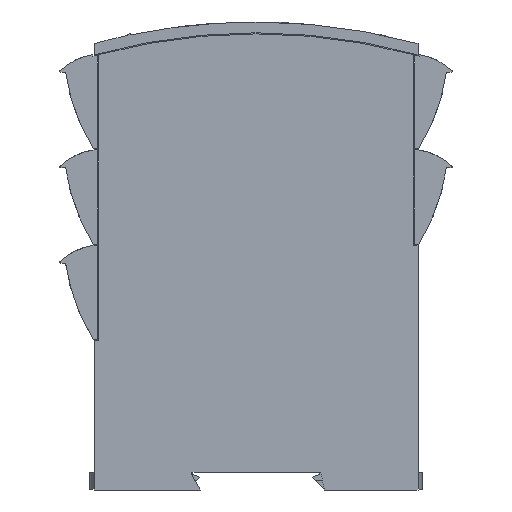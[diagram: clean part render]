
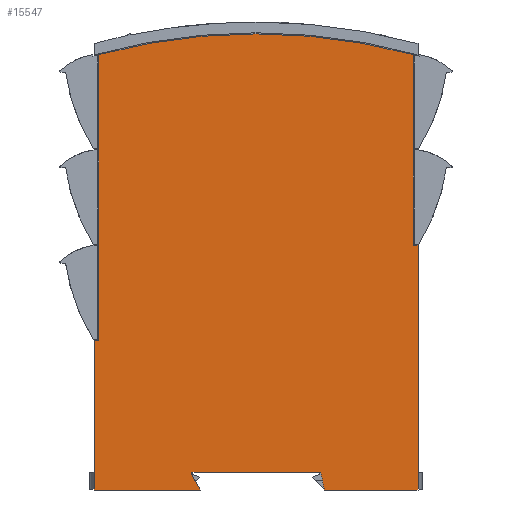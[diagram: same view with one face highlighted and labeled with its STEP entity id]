
A CAD part, left-side view. The second image highlights one B-rep face of the part: STEP entity #15547.
In plain terms, the highlighted planar face has unit normal (-1, 0, 0).
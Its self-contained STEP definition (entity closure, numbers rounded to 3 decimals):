
#119 = VECTOR ( 'NONE', #16597, 1000. ) ;
#173 = EDGE_CURVE ( 'NONE', #12358, #11105, #7694, .T. ) ;
#318 = DIRECTION ( 'NONE',  ( 0., 1., 0. ) ) ;
#627 = VERTEX_POINT ( 'NONE', #2536 ) ;
#985 = EDGE_CURVE ( 'NONE', #17791, #17031, #11683, .T. ) ;
#1011 = ORIENTED_EDGE ( 'NONE', *, *, #12300, .F. ) ;
#1232 = CARTESIAN_POINT ( 'NONE',  ( -11.75, -19., -124. ) ) ;
#1388 = PLANE ( 'NONE',  #7002 ) ;
#1730 = EDGE_CURVE ( 'NONE', #15993, #17376, #2837, .T. ) ;
#1978 = LINE ( 'NONE', #16311, #16287 ) ;
#2211 = CARTESIAN_POINT ( 'NONE',  ( -11.75, -45., -56. ) ) ;
#2283 = AXIS2_PLACEMENT_3D ( 'NONE', #14032, #15500, #6202 ) ;
#2398 = ORIENTED_EDGE ( 'NONE', *, *, #7457, .T. ) ;
#2536 = CARTESIAN_POINT ( 'NONE',  ( -11.75, 43.7, -3.067 ) ) ;
#2631 = VECTOR ( 'NONE', #18695, 1000. ) ;
#2837 = LINE ( 'NONE', #13806, #13646 ) ;
#3087 = EDGE_CURVE ( 'NONE', #5303, #11105, #19921, .T. ) ;
#3545 = VERTEX_POINT ( 'NONE', #10477 ) ;
#3550 = EDGE_CURVE ( 'NONE', #15993, #8807, #17116, .T. ) ;
#3860 = VECTOR ( 'NONE', #20853, 1000. ) ;
#4043 = DIRECTION ( 'NONE',  ( 0., 0.497, 0.868 ) ) ;
#4086 = DIRECTION ( 'NONE',  ( 1., 0., 0. ) ) ;
#4276 = DIRECTION ( 'NONE',  ( 0., 0., -1. ) ) ;
#5153 = DIRECTION ( 'NONE',  ( 0., -1., 0. ) ) ;
#5303 = VERTEX_POINT ( 'NONE', #14553 ) ;
#5497 = DIRECTION ( 'NONE',  ( -1., 0., 0. ) ) ;
#5615 = CARTESIAN_POINT ( 'NONE',  ( -11.75, 17.934, -119.748 ) ) ;
#5724 = DIRECTION ( 'NONE',  ( 0., 0., -1. ) ) ;
#5730 = EDGE_CURVE ( 'NONE', #12479, #5303, #10316, .T. ) ;
#5893 = LINE ( 'NONE', #14310, #12912 ) ;
#5898 = CARTESIAN_POINT ( 'NONE',  ( -11.75, -43.7, -3.067 ) ) ;
#6202 = DIRECTION ( 'NONE',  ( 0., 0., -1. ) ) ;
#6705 = CARTESIAN_POINT ( 'NONE',  ( -11.75, 45., -124. ) ) ;
#6982 = CARTESIAN_POINT ( 'NONE',  ( -11.75, 43.7, -82.5 ) ) ;
#7002 = AXIS2_PLACEMENT_3D ( 'NONE', #7646, #20503, #4276 ) ;
#7331 = FACE_OUTER_BOUND ( 'NONE', #12268, .T. ) ;
#7457 = EDGE_CURVE ( 'NONE', #17074, #3545, #7740, .T. ) ;
#7469 = ORIENTED_EDGE ( 'NONE', *, *, #12227, .T. ) ;
#7646 = CARTESIAN_POINT ( 'NONE',  ( -11.75, 0., -165.75 ) ) ;
#7694 = LINE ( 'NONE', #19933, #119 ) ;
#7698 = ORIENTED_EDGE ( 'NONE', *, *, #3087, .F. ) ;
#7740 = CIRCLE ( 'NONE', #19186, 0.5 ) ;
#7827 = CARTESIAN_POINT ( 'NONE',  ( -11.75, 45., 0. ) ) ;
#7860 = DIRECTION ( 'NONE',  ( 0., -0.196, -0.981 ) ) ;
#7868 = CARTESIAN_POINT ( 'NONE',  ( -11.75, -45., -124. ) ) ;
#8719 = EDGE_CURVE ( 'NONE', #19302, #18717, #16209, .T. ) ;
#8807 = VERTEX_POINT ( 'NONE', #17365 ) ;
#8841 = VECTOR ( 'NONE', #13844, 1000. ) ;
#9123 = VECTOR ( 'NONE', #19122, 1000. ) ;
#9142 = CARTESIAN_POINT ( 'NONE',  ( -11.75, 15.5, -124. ) ) ;
#9721 = CARTESIAN_POINT ( 'NONE',  ( -11.75, -18., -119. ) ) ;
#10316 = LINE ( 'NONE', #6705, #19362 ) ;
#10450 = DIRECTION ( 'NONE',  ( 0., 0., -1. ) ) ;
#10453 = ORIENTED_EDGE ( 'NONE', *, *, #3550, .T. ) ;
#10477 = CARTESIAN_POINT ( 'NONE',  ( -11.75, 17.5, -119. ) ) ;
#11089 = LINE ( 'NONE', #18052, #8841 ) ;
#11105 = VERTEX_POINT ( 'NONE', #18452 ) ;
#11683 = LINE ( 'NONE', #14360, #3860 ) ;
#12004 = ORIENTED_EDGE ( 'NONE', *, *, #8719, .T. ) ;
#12227 = EDGE_CURVE ( 'NONE', #3545, #19302, #13847, .T. ) ;
#12268 = EDGE_LOOP ( 'NONE', ( #18825, #20700, #7698, #14000, #20447, #2398, #7469, #12004, #1011, #18653, #20534, #14643, #10453, #17239 ) ) ;
#12275 = AXIS2_PLACEMENT_3D ( 'NONE', #19673, #5497, #14946 ) ;
#12298 = EDGE_CURVE ( 'NONE', #8807, #627, #20145, .T. ) ;
#12300 = EDGE_CURVE ( 'NONE', #17791, #18717, #11089, .T. ) ;
#12358 = VERTEX_POINT ( 'NONE', #6982 ) ;
#12479 = VERTEX_POINT ( 'NONE', #9142 ) ;
#12493 = CARTESIAN_POINT ( 'NONE',  ( -11.75, -18., -119. ) ) ;
#12912 = VECTOR ( 'NONE', #15717, 1000. ) ;
#13033 = CARTESIAN_POINT ( 'NONE',  ( -11.75, -43.7, -56. ) ) ;
#13533 = EDGE_CURVE ( 'NONE', #17376, #17031, #20747, .T. ) ;
#13646 = VECTOR ( 'NONE', #10450, 1000. ) ;
#13806 = CARTESIAN_POINT ( 'NONE',  ( -11.75, -43.7, -56. ) ) ;
#13844 = DIRECTION ( 'NONE',  ( 0., 1., 0. ) ) ;
#13847 = LINE ( 'NONE', #17915, #17343 ) ;
#14000 = ORIENTED_EDGE ( 'NONE', *, *, #5730, .F. ) ;
#14032 = CARTESIAN_POINT ( 'NONE',  ( -11.75, 0., -165.75 ) ) ;
#14279 = EDGE_CURVE ( 'NONE', #627, #12358, #5893, .T. ) ;
#14310 = CARTESIAN_POINT ( 'NONE',  ( -11.75, 43.7, -56. ) ) ;
#14360 = CARTESIAN_POINT ( 'NONE',  ( -11.75, -45., 0. ) ) ;
#14553 = CARTESIAN_POINT ( 'NONE',  ( -11.75, 45., -124. ) ) ;
#14643 = ORIENTED_EDGE ( 'NONE', *, *, #1730, .F. ) ;
#14946 = DIRECTION ( 'NONE',  ( 0., 0., -1. ) ) ;
#15097 = CARTESIAN_POINT ( 'NONE',  ( -11.75, 17.5, -119.5 ) ) ;
#15500 = DIRECTION ( 'NONE',  ( -1., 0., 0. ) ) ;
#15547 = ADVANCED_FACE ( 'NONE', ( #7331 ), #1388, .F. ) ;
#15717 = DIRECTION ( 'NONE',  ( 0., 0., -1. ) ) ;
#15993 = VERTEX_POINT ( 'NONE', #5898 ) ;
#16209 = LINE ( 'NONE', #12493, #20010 ) ;
#16287 = VECTOR ( 'NONE', #4043, 1000. ) ;
#16311 = CARTESIAN_POINT ( 'NONE',  ( -11.75, 17.934, -119.748 ) ) ;
#16597 = DIRECTION ( 'NONE',  ( 0., 1., 0. ) ) ;
#17031 = VERTEX_POINT ( 'NONE', #2211 ) ;
#17074 = VERTEX_POINT ( 'NONE', #5615 ) ;
#17116 = CIRCLE ( 'NONE', #2283, 168.45 ) ;
#17239 = ORIENTED_EDGE ( 'NONE', *, *, #12298, .T. ) ;
#17343 = VECTOR ( 'NONE', #5153, 1000. ) ;
#17365 = CARTESIAN_POINT ( 'NONE',  ( -11.75, 0., 2.7 ) ) ;
#17376 = VERTEX_POINT ( 'NONE', #13033 ) ;
#17791 = VERTEX_POINT ( 'NONE', #7868 ) ;
#17915 = CARTESIAN_POINT ( 'NONE',  ( -11.75, -18., -119. ) ) ;
#18024 = EDGE_CURVE ( 'NONE', #12479, #17074, #1978, .T. ) ;
#18052 = CARTESIAN_POINT ( 'NONE',  ( -11.75, 45., -124. ) ) ;
#18452 = CARTESIAN_POINT ( 'NONE',  ( -11.75, 45., -82.5 ) ) ;
#18622 = CARTESIAN_POINT ( 'NONE',  ( -11.75, -45., -56. ) ) ;
#18653 = ORIENTED_EDGE ( 'NONE', *, *, #985, .T. ) ;
#18695 = DIRECTION ( 'NONE',  ( 0., -1., 0. ) ) ;
#18717 = VERTEX_POINT ( 'NONE', #1232 ) ;
#18825 = ORIENTED_EDGE ( 'NONE', *, *, #14279, .T. ) ;
#19122 = DIRECTION ( 'NONE',  ( 0., 0., 1. ) ) ;
#19186 = AXIS2_PLACEMENT_3D ( 'NONE', #15097, #4086, #5724 ) ;
#19302 = VERTEX_POINT ( 'NONE', #9721 ) ;
#19362 = VECTOR ( 'NONE', #318, 1000. ) ;
#19673 = CARTESIAN_POINT ( 'NONE',  ( -11.75, 0., -165.75 ) ) ;
#19921 = LINE ( 'NONE', #7827, #9123 ) ;
#19933 = CARTESIAN_POINT ( 'NONE',  ( -11.75, 44.7, -82.5 ) ) ;
#20010 = VECTOR ( 'NONE', #7860, 1000. ) ;
#20145 = CIRCLE ( 'NONE', #12275, 168.45 ) ;
#20447 = ORIENTED_EDGE ( 'NONE', *, *, #18024, .T. ) ;
#20503 = DIRECTION ( 'NONE',  ( 1., 0., 0. ) ) ;
#20534 = ORIENTED_EDGE ( 'NONE', *, *, #13533, .F. ) ;
#20700 = ORIENTED_EDGE ( 'NONE', *, *, #173, .T. ) ;
#20747 = LINE ( 'NONE', #18622, #2631 ) ;
#20853 = DIRECTION ( 'NONE',  ( 0., 0., 1. ) ) ;
